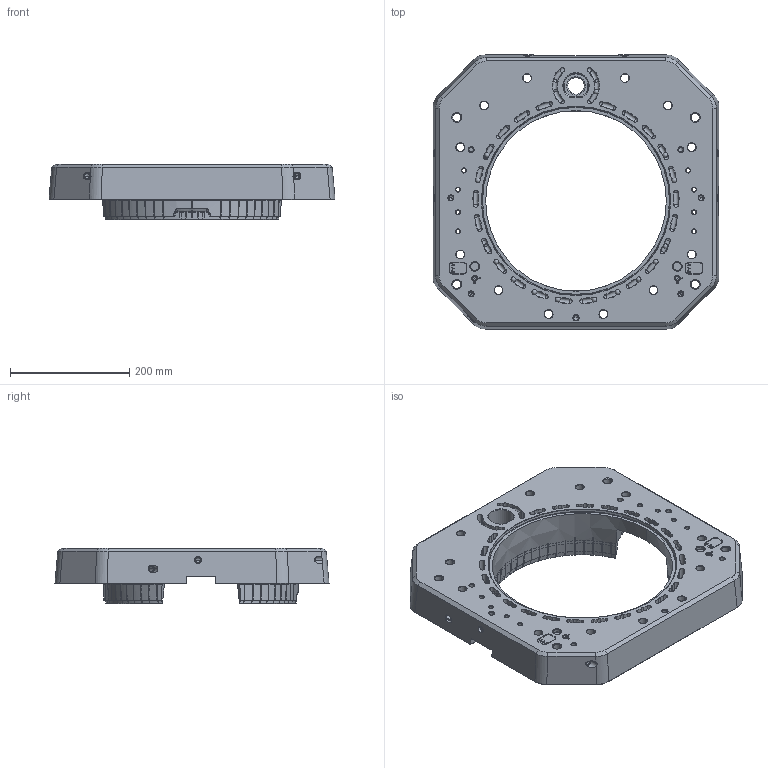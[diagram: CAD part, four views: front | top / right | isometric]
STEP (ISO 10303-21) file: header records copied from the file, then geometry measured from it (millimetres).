
FILE_DESCRIPTION(('WORKNC-CAD-HM Export'),'2;1');
FILE_NAME('C:\Users\baedorf\Desktop\M&H Step\N1980-4713_ET_DS-Konturring_STEP_03_WorkXPlore.stp','2014-11-04T08:46:39',(''),('Sescoi International'),'BRepLib','','');
FILE_SCHEMA(('AUTOMOTIVE_DESIGN { 1 0 10303 214 2 1 1}'));
Length unit declared in the file: millimetre
Products named in the file (2): Root
Assembly tree (1 placements, depth 2):
  Root
    (unnamed)
Bounding box: 479.81 x 459.81 x 93.66 mm (x, y, z)
Volume: 6705203.2 mm3; surface area: 656367.8 mm2
Topology: 1 solids, 1 shells, 4466 faces, 11066 edges, 6567 vertices
Faces by surface type: bspline 1532, cylinder 797, torus 732, plane 673, cone 579, extrusion 88, sphere 65
Entity records: 225879 total; most frequent: CARTESIAN_POINT 92809, ORIENTED_EDGE 21824, DIRECTION 19036, EDGE_CURVE 10912, AXIS2_PLACEMENT_3D 7710, VERTEX_POINT 6582, CIRCLE 4870, EDGE_LOOP 4669
